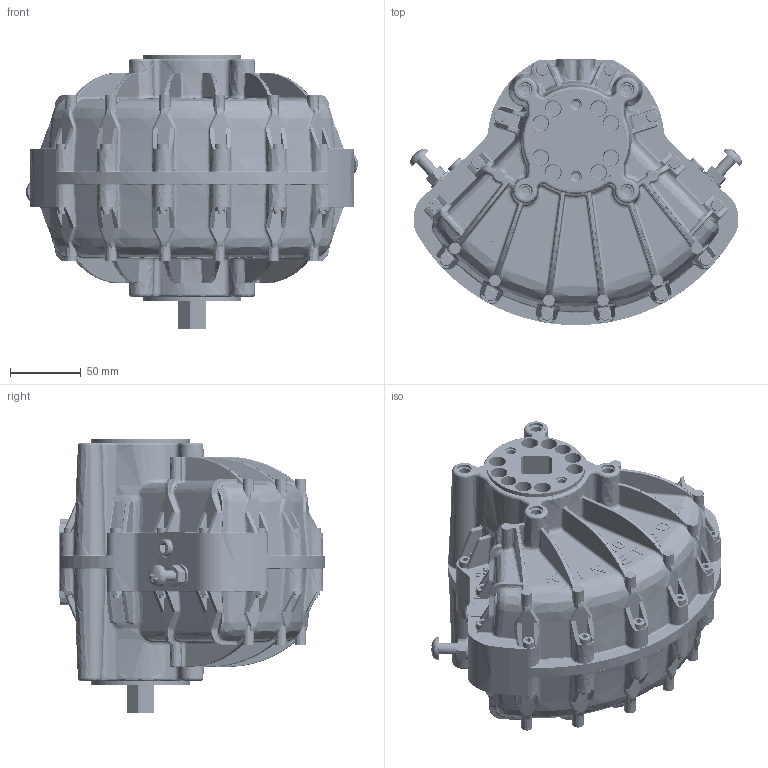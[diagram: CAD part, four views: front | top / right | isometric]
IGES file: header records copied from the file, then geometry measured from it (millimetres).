
Start section: Comment
Global section: file name: 103-100.igs; native system:  By UGS Corp.; preprocessor: XPlus GENERIC/IGES 3.0; author: Author; organization: Title; date: 20090204.110250; units: millimetre
Bounding box: 235.48 x 188.98 x 195 mm (x, y, z)
Surface area: 305094.3 mm2 (no closed solid volume)
Topology: 0 solids, 0 shells, 4293 faces, 22142 edges, 22048 vertices
Faces by surface type: bspline 4293
